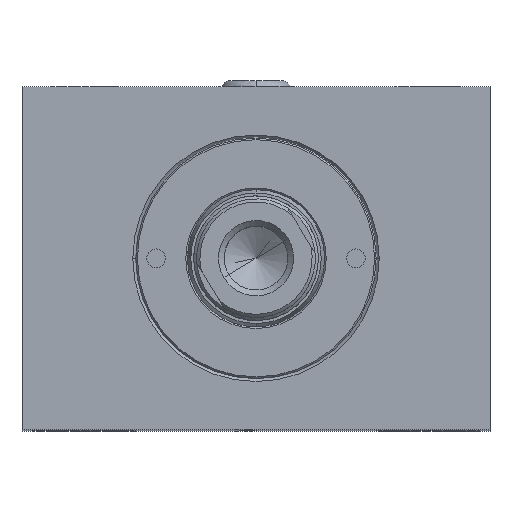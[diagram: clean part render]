
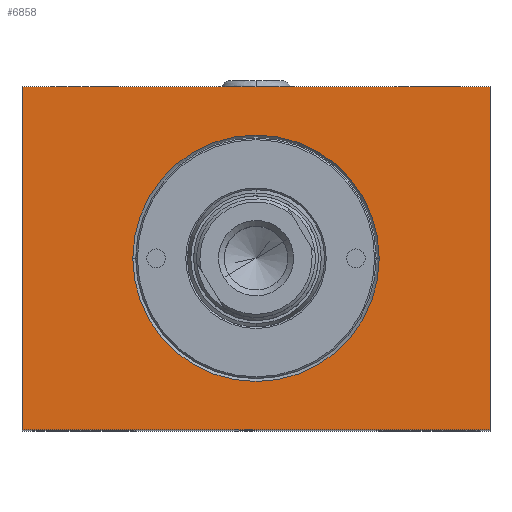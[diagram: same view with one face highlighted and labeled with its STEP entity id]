
A CAD part, top view. The second image highlights one B-rep face of the part: STEP entity #6858.
In plain terms, the highlighted planar face has unit normal (0, 0, 1).
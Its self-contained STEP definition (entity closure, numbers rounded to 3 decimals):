
#45 = ORIENTED_EDGE ( 'NONE', *, *, #1121, .T. ) ;
#286 = LINE ( 'NONE', #8753, #5784 ) ;
#401 = CARTESIAN_POINT ( 'NONE',  ( 17.75, 27.5, 140. ) ) ;
#508 = VERTEX_POINT ( 'NONE', #4499 ) ;
#540 = DIRECTION ( 'NONE',  ( 0., 0., -1. ) ) ;
#1063 = VECTOR ( 'NONE', #1569, 1000. ) ;
#1121 = EDGE_CURVE ( 'NONE', #1158, #11084, #5592, .T. ) ;
#1158 = VERTEX_POINT ( 'NONE', #401 ) ;
#1344 = DIRECTION ( 'NONE',  ( -1., 0., 0. ) ) ;
#1407 = EDGE_CURVE ( 'NONE', #11084, #1158, #7983, .T. ) ;
#1569 = DIRECTION ( 'NONE',  ( 0., 1., 0. ) ) ;
#1769 = DIRECTION ( 'NONE',  ( -1., 0., 0. ) ) ;
#2108 = VERTEX_POINT ( 'NONE', #10803 ) ;
#2815 = VECTOR ( 'NONE', #3061, 1000. ) ;
#3061 = DIRECTION ( 'NONE',  ( 1., 0., 0. ) ) ;
#3295 = PLANE ( 'NONE',  #8073 ) ;
#4019 = EDGE_CURVE ( 'NONE', #508, #2108, #6419, .T. ) ;
#4209 = AXIS2_PLACEMENT_3D ( 'NONE', #10543, #540, #11534 ) ;
#4266 = CARTESIAN_POINT ( 'NONE',  ( 0., 55., 140. ) ) ;
#4499 = CARTESIAN_POINT ( 'NONE',  ( 75., 0., 140. ) ) ;
#4563 = EDGE_CURVE ( 'NONE', #6707, #11838, #286, .T. ) ;
#4711 = LINE ( 'NONE', #4777, #10225 ) ;
#4777 = CARTESIAN_POINT ( 'NONE',  ( 0., 55., 140. ) ) ;
#4996 = ORIENTED_EDGE ( 'NONE', *, *, #12028, .T. ) ;
#5256 = CARTESIAN_POINT ( 'NONE',  ( 0., 0., 140. ) ) ;
#5354 = ORIENTED_EDGE ( 'NONE', *, *, #1407, .T. ) ;
#5592 = CIRCLE ( 'NONE', #4209, 19.75 ) ;
#5600 = FACE_OUTER_BOUND ( 'NONE', #5927, .T. ) ;
#5784 = VECTOR ( 'NONE', #12774, 1000. ) ;
#5927 = EDGE_LOOP ( 'NONE', ( #12707, #11578, #7593, #4996 ) ) ;
#6419 = LINE ( 'NONE', #9694, #1063 ) ;
#6592 = DIRECTION ( 'NONE',  ( 0., 0., -1. ) ) ;
#6638 = CARTESIAN_POINT ( 'NONE',  ( 0., 0., 140. ) ) ;
#6707 = VERTEX_POINT ( 'NONE', #4266 ) ;
#6858 = ADVANCED_FACE ( 'NONE', ( #7517, #5600 ), #3295, .F. ) ;
#7463 = DIRECTION ( 'NONE',  ( 0., 0., -1. ) ) ;
#7517 = FACE_BOUND ( 'NONE', #13078, .T. ) ;
#7538 = DIRECTION ( 'NONE',  ( -1., 0., 0. ) ) ;
#7593 = ORIENTED_EDGE ( 'NONE', *, *, #4019, .T. ) ;
#7983 = CIRCLE ( 'NONE', #12075, 19.75 ) ;
#8073 = AXIS2_PLACEMENT_3D ( 'NONE', #6638, #6592, #7538 ) ;
#8417 = CARTESIAN_POINT ( 'NONE',  ( 37.5, 27.5, 140. ) ) ;
#8753 = CARTESIAN_POINT ( 'NONE',  ( 0., 0., 140. ) ) ;
#8960 = LINE ( 'NONE', #5256, #2815 ) ;
#9694 = CARTESIAN_POINT ( 'NONE',  ( 75., 0., 140. ) ) ;
#10225 = VECTOR ( 'NONE', #1769, 1000. ) ;
#10543 = CARTESIAN_POINT ( 'NONE',  ( 37.5, 27.5, 140. ) ) ;
#10803 = CARTESIAN_POINT ( 'NONE',  ( 75., 55., 140. ) ) ;
#11084 = VERTEX_POINT ( 'NONE', #11169 ) ;
#11169 = CARTESIAN_POINT ( 'NONE',  ( 57.25, 27.5, 140. ) ) ;
#11509 = CARTESIAN_POINT ( 'NONE',  ( 0., 0., 140. ) ) ;
#11534 = DIRECTION ( 'NONE',  ( -1., 0., 0. ) ) ;
#11578 = ORIENTED_EDGE ( 'NONE', *, *, #12649, .T. ) ;
#11838 = VERTEX_POINT ( 'NONE', #11509 ) ;
#12028 = EDGE_CURVE ( 'NONE', #2108, #6707, #4711, .T. ) ;
#12075 = AXIS2_PLACEMENT_3D ( 'NONE', #8417, #7463, #1344 ) ;
#12649 = EDGE_CURVE ( 'NONE', #11838, #508, #8960, .T. ) ;
#12707 = ORIENTED_EDGE ( 'NONE', *, *, #4563, .T. ) ;
#12774 = DIRECTION ( 'NONE',  ( 0., -1., 0. ) ) ;
#13078 = EDGE_LOOP ( 'NONE', ( #5354, #45 ) ) ;
